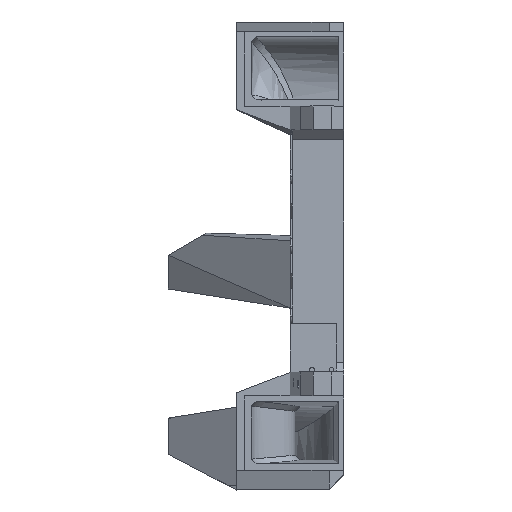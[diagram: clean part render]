
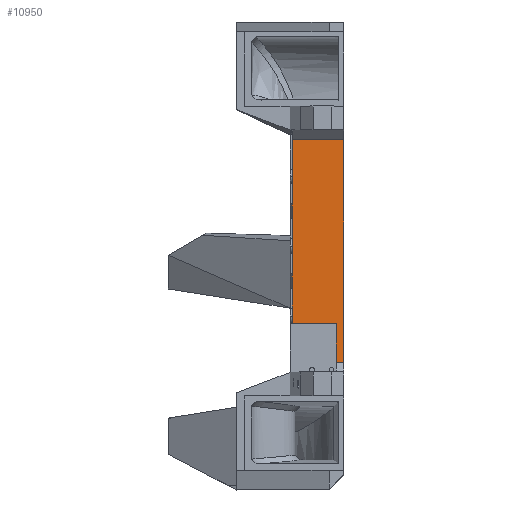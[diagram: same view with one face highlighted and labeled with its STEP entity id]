
A CAD part, top view. The second image highlights one B-rep face of the part: STEP entity #10950.
In plain terms, the highlighted planar face has unit normal (0, 0, 1).
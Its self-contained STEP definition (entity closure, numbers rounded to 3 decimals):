
#1066=ORIENTED_EDGE('',*,*,#3991,.T.);
#1067=ORIENTED_EDGE('',*,*,#4323,.F.);
#1068=ORIENTED_EDGE('',*,*,#4324,.F.);
#1069=ORIENTED_EDGE('',*,*,#4325,.F.);
#1070=ORIENTED_EDGE('',*,*,#4326,.F.);
#1071=ORIENTED_EDGE('',*,*,#4327,.F.);
#1072=ORIENTED_EDGE('',*,*,#4328,.F.);
#1073=ORIENTED_EDGE('',*,*,#4329,.F.);
#1074=ORIENTED_EDGE('',*,*,#4330,.F.);
#1075=ORIENTED_EDGE('',*,*,#4331,.F.);
#3991=EDGE_CURVE('',#5637,#5636,#6689,.T.);
#4323=EDGE_CURVE('',#5939,#5636,#6929,.T.);
#4324=EDGE_CURVE('',#5940,#5939,#6930,.T.);
#4325=EDGE_CURVE('',#5941,#5940,#6931,.T.);
#4326=EDGE_CURVE('',#5942,#5941,#6932,.T.);
#4327=EDGE_CURVE('',#5943,#5942,#6933,.T.);
#4328=EDGE_CURVE('',#5944,#5943,#6934,.T.);
#4329=EDGE_CURVE('',#5945,#5944,#6935,.T.);
#4330=EDGE_CURVE('',#5946,#5945,#6936,.T.);
#4331=EDGE_CURVE('',#5637,#5946,#6937,.T.);
#5636=VERTEX_POINT('',#15722);
#5637=VERTEX_POINT('',#15724);
#5939=VERTEX_POINT('',#16537);
#5940=VERTEX_POINT('',#16539);
#5941=VERTEX_POINT('',#16541);
#5942=VERTEX_POINT('',#16543);
#5943=VERTEX_POINT('',#16545);
#5944=VERTEX_POINT('',#16547);
#5945=VERTEX_POINT('',#16549);
#5946=VERTEX_POINT('',#16551);
#6689=LINE('',#15723,#7978);
#6929=LINE('',#16536,#8218);
#6930=LINE('',#16538,#8219);
#6931=LINE('',#16540,#8220);
#6932=LINE('',#16542,#8221);
#6933=LINE('',#16544,#8222);
#6934=LINE('',#16546,#8223);
#6935=LINE('',#16548,#8224);
#6936=LINE('',#16550,#8225);
#6937=LINE('',#16552,#8226);
#7978=VECTOR('',#12480,1000.);
#8218=VECTOR('',#12906,1000.);
#8219=VECTOR('',#12907,1000.);
#8220=VECTOR('',#12908,1000.);
#8221=VECTOR('',#12909,1000.);
#8222=VECTOR('',#12910,1000.);
#8223=VECTOR('',#12911,1000.);
#8224=VECTOR('',#12912,1000.);
#8225=VECTOR('',#12913,1000.);
#8226=VECTOR('',#12914,1000.);
#9179=EDGE_LOOP('',(#1066,#1067,#1068,#1069,#1070,#1071,#1072,#1073,#1074,
#1075));
#9856=FACE_BOUND('',#9179,.T.);
#10492=PLANE('',#11650);
#10950=ADVANCED_FACE('',(#9856),#10492,.T.);
#11650=AXIS2_PLACEMENT_3D('',#16535,#12904,#12905);
#12480=DIRECTION('',(0.,1.,0.));
#12904=DIRECTION('',(0.,0.,1.));
#12905=DIRECTION('',(-1.,0.,0.));
#12906=DIRECTION('',(1.,0.,0.));
#12907=DIRECTION('',(0.,1.,0.));
#12908=DIRECTION('',(0.,1.,0.));
#12909=DIRECTION('',(0.,1.,0.));
#12910=DIRECTION('',(0.,1.,0.));
#12911=DIRECTION('',(0.,1.,0.));
#12912=DIRECTION('',(-1.,0.,0.));
#12913=DIRECTION('',(0.,1.,0.));
#12914=DIRECTION('',(-1.,0.,0.));
#15722=CARTESIAN_POINT('',(536.05,-6.8,24.498));
#15723=CARTESIAN_POINT('',(536.05,-54.5,24.498));
#15724=CARTESIAN_POINT('',(536.05,-52.5,24.498));
#16535=CARTESIAN_POINT('',(534.55,-54.5,24.498));
#16536=CARTESIAN_POINT('',(536.05,-6.8,24.498));
#16537=CARTESIAN_POINT('',(525.522,-6.8,24.498));
#16538=CARTESIAN_POINT('',(525.522,-54.5,24.498));
#16539=CARTESIAN_POINT('',(525.522,-19.975,24.498));
#16540=CARTESIAN_POINT('',(525.522,-191.74,24.498));
#16541=CARTESIAN_POINT('',(525.522,-22.975,24.498));
#16542=CARTESIAN_POINT('',(525.522,-53.5,24.498));
#16543=CARTESIAN_POINT('',(525.522,-34.325,24.498));
#16544=CARTESIAN_POINT('',(525.522,-191.74,24.498));
#16545=CARTESIAN_POINT('',(525.522,-37.325,24.498));
#16546=CARTESIAN_POINT('',(525.522,-53.5,24.498));
#16547=CARTESIAN_POINT('',(525.522,-44.5,24.498));
#16548=CARTESIAN_POINT('',(534.55,-44.5,24.498));
#16549=CARTESIAN_POINT('',(534.55,-44.5,24.498));
#16550=CARTESIAN_POINT('',(534.55,-54.5,24.498));
#16551=CARTESIAN_POINT('',(534.55,-52.5,24.498));
#16552=CARTESIAN_POINT('',(534.55,-52.5,24.498));
